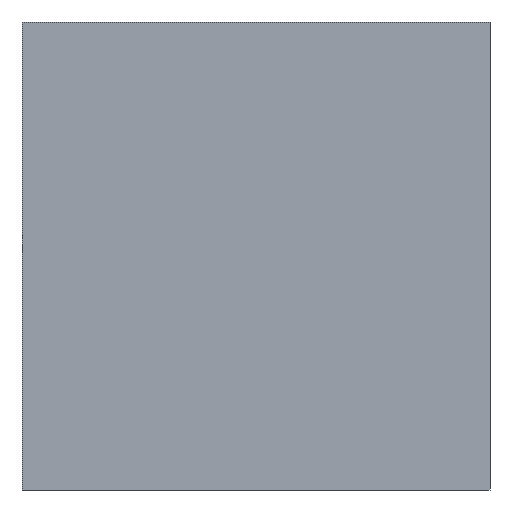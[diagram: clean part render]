
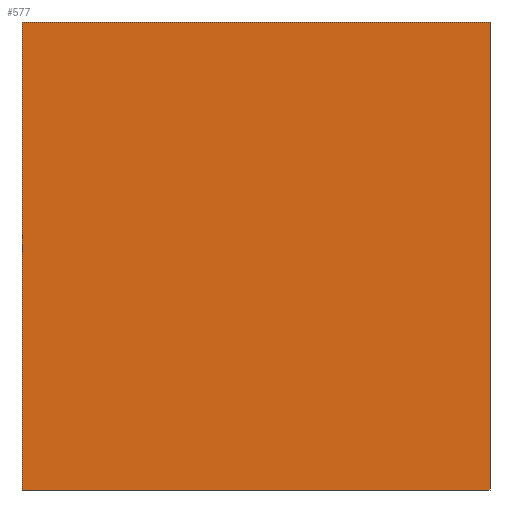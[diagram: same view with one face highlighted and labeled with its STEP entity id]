
A CAD part, left-side view. The second image highlights one B-rep face of the part: STEP entity #577.
In plain terms, the highlighted planar face has unit normal (-1, 0, 0).
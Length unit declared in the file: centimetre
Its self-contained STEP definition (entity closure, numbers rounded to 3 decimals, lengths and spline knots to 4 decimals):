
#8 = CARTESIAN_POINT ( 'NONE',  ( 0., 0., 1000. ) ) ;
#44 = CARTESIAN_POINT ( 'NONE',  ( 0., 1000., 1000. ) ) ;
#78 = VECTOR ( 'NONE', #433, 100. ) ;
#104 = CARTESIAN_POINT ( 'NONE',  ( 0., 0., 0. ) ) ;
#112 = AXIS2_PLACEMENT_3D ( 'NONE', #555, #147, #327 ) ;
#115 = CARTESIAN_POINT ( 'NONE',  ( 0., 0., 1000. ) ) ;
#142 = CARTESIAN_POINT ( 'NONE',  ( 0., 1000., 1000. ) ) ;
#147 = DIRECTION ( 'NONE',  ( 1., 0., 0. ) ) ;
#154 = ORIENTED_EDGE ( 'NONE', *, *, #184, .T. ) ;
#161 = ORIENTED_EDGE ( 'NONE', *, *, #554, .F. ) ;
#171 = VECTOR ( 'NONE', #514, 100. ) ;
#175 = VECTOR ( 'NONE', #359, 100. ) ;
#184 = EDGE_CURVE ( 'NONE', #392, #289, #310, .T. ) ;
#191 = EDGE_CURVE ( 'NONE', #251, #392, #347, .T. ) ;
#219 = ORIENTED_EDGE ( 'NONE', *, *, #191, .T. ) ;
#250 = CARTESIAN_POINT ( 'NONE',  ( 0., 1000., 0. ) ) ;
#251 = VERTEX_POINT ( 'NONE', #44 ) ;
#289 = VERTEX_POINT ( 'NONE', #104 ) ;
#297 = ORIENTED_EDGE ( 'NONE', *, *, #416, .F. ) ;
#310 = LINE ( 'NONE', #495, #537 ) ;
#327 = DIRECTION ( 'NONE',  ( 0., 0., -1. ) ) ;
#347 = LINE ( 'NONE', #545, #175 ) ;
#359 = DIRECTION ( 'NONE',  ( 0., 0., -1. ) ) ;
#363 = DIRECTION ( 'NONE',  ( 0., -1., 0. ) ) ;
#377 = EDGE_LOOP ( 'NONE', ( #154, #297, #161, #219 ) ) ;
#392 = VERTEX_POINT ( 'NONE', #250 ) ;
#416 = EDGE_CURVE ( 'NONE', #480, #289, #565, .T. ) ;
#433 = DIRECTION ( 'NONE',  ( 0., 0., -1. ) ) ;
#480 = VERTEX_POINT ( 'NONE', #8 ) ;
#495 = CARTESIAN_POINT ( 'NONE',  ( 0., 1000., 0. ) ) ;
#508 = PLANE ( 'NONE',  #112 ) ;
#510 = FACE_OUTER_BOUND ( 'NONE', #377, .T. ) ;
#514 = DIRECTION ( 'NONE',  ( 0., -1., 0. ) ) ;
#537 = VECTOR ( 'NONE', #363, 100. ) ;
#545 = CARTESIAN_POINT ( 'NONE',  ( 0., 1000., 1000. ) ) ;
#549 = LINE ( 'NONE', #142, #171 ) ;
#554 = EDGE_CURVE ( 'NONE', #251, #480, #549, .T. ) ;
#555 = CARTESIAN_POINT ( 'NONE',  ( 0., 1000., 1000. ) ) ;
#565 = LINE ( 'NONE', #115, #78 ) ;
#577 = ADVANCED_FACE ( 'NONE', ( #510 ), #508, .F. ) ;
